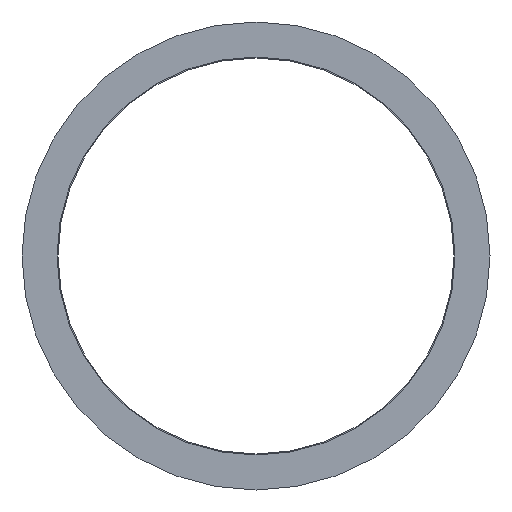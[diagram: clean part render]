
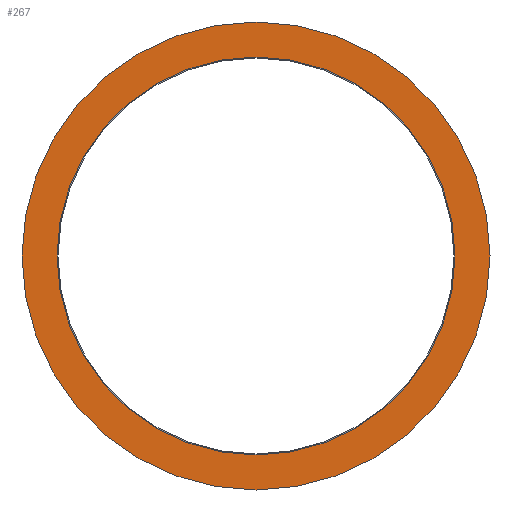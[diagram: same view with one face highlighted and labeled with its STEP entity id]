
A CAD part, left-side view. The second image highlights one B-rep face of the part: STEP entity #267.
In plain terms, the highlighted planar face has unit normal (-1, 0, 0).
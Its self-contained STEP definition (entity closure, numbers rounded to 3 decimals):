
#22 = ORIENTED_EDGE ( 'NONE', *, *, #295, .F. ) ;
#33 = AXIS2_PLACEMENT_3D ( 'NONE', #185, #377, #154 ) ;
#63 = DIRECTION ( 'NONE',  ( 1., 0., 0. ) ) ;
#78 = EDGE_CURVE ( 'NONE', #262, #148, #166, .T. ) ;
#79 = DIRECTION ( 'NONE',  ( 0., 0., -1. ) ) ;
#113 = EDGE_CURVE ( 'NONE', #192, #200, #207, .T. ) ;
#131 = CARTESIAN_POINT ( 'NONE',  ( -2.986, -0.028, 0. ) ) ;
#132 = CARTESIAN_POINT ( 'NONE',  ( -2.986, -0.028, -11.055 ) ) ;
#148 = VERTEX_POINT ( 'NONE', #352 ) ;
#154 = DIRECTION ( 'NONE',  ( 0., 0., -1. ) ) ;
#166 = CIRCLE ( 'NONE', #33, 13. ) ;
#167 = AXIS2_PLACEMENT_3D ( 'NONE', #279, #63, #315 ) ;
#181 = DIRECTION ( 'NONE',  ( 0., 0., -1. ) ) ;
#185 = CARTESIAN_POINT ( 'NONE',  ( -2.986, -0.028, 0. ) ) ;
#192 = VERTEX_POINT ( 'NONE', #132 ) ;
#194 = DIRECTION ( 'NONE',  ( 1., 0., 0. ) ) ;
#200 = VERTEX_POINT ( 'NONE', #354 ) ;
#207 = CIRCLE ( 'NONE', #355, 11.055 ) ;
#213 = CARTESIAN_POINT ( 'NONE',  ( -2.986, -0.028, 0. ) ) ;
#221 = FACE_BOUND ( 'NONE', #347, .T. ) ;
#228 = CARTESIAN_POINT ( 'NONE',  ( -2.986, -0.028, -13. ) ) ;
#252 = CIRCLE ( 'NONE', #276, 11.055 ) ;
#256 = CIRCLE ( 'NONE', #167, 13. ) ;
#262 = VERTEX_POINT ( 'NONE', #228 ) ;
#267 = ADVANCED_FACE ( 'NONE', ( #221, #309 ), #338, .T. ) ;
#271 = EDGE_CURVE ( 'NONE', #200, #192, #252, .T. ) ;
#276 = AXIS2_PLACEMENT_3D ( 'NONE', #131, #336, #79 ) ;
#279 = CARTESIAN_POINT ( 'NONE',  ( -2.986, -0.028, 0. ) ) ;
#285 = EDGE_LOOP ( 'NONE', ( #304, #22 ) ) ;
#295 = EDGE_CURVE ( 'NONE', #148, #262, #256, .T. ) ;
#304 = ORIENTED_EDGE ( 'NONE', *, *, #78, .F. ) ;
#309 = FACE_OUTER_BOUND ( 'NONE', #285, .T. ) ;
#315 = DIRECTION ( 'NONE',  ( 0., 0., -1. ) ) ;
#333 = CARTESIAN_POINT ( 'NONE',  ( -2.986, -0.028, 0. ) ) ;
#336 = DIRECTION ( 'NONE',  ( 1., 0., 0. ) ) ;
#338 = PLANE ( 'NONE',  #394 ) ;
#347 = EDGE_LOOP ( 'NONE', ( #371, #357 ) ) ;
#352 = CARTESIAN_POINT ( 'NONE',  ( -2.986, -0.028, 13. ) ) ;
#354 = CARTESIAN_POINT ( 'NONE',  ( -2.986, -0.028, 11.055 ) ) ;
#355 = AXIS2_PLACEMENT_3D ( 'NONE', #213, #194, #181 ) ;
#357 = ORIENTED_EDGE ( 'NONE', *, *, #271, .T. ) ;
#371 = ORIENTED_EDGE ( 'NONE', *, *, #113, .T. ) ;
#373 = DIRECTION ( 'NONE',  ( -1., 0., 0. ) ) ;
#377 = DIRECTION ( 'NONE',  ( 1., 0., 0. ) ) ;
#394 = AXIS2_PLACEMENT_3D ( 'NONE', #333, #373, #401 ) ;
#401 = DIRECTION ( 'NONE',  ( 0., 0., 1. ) ) ;
